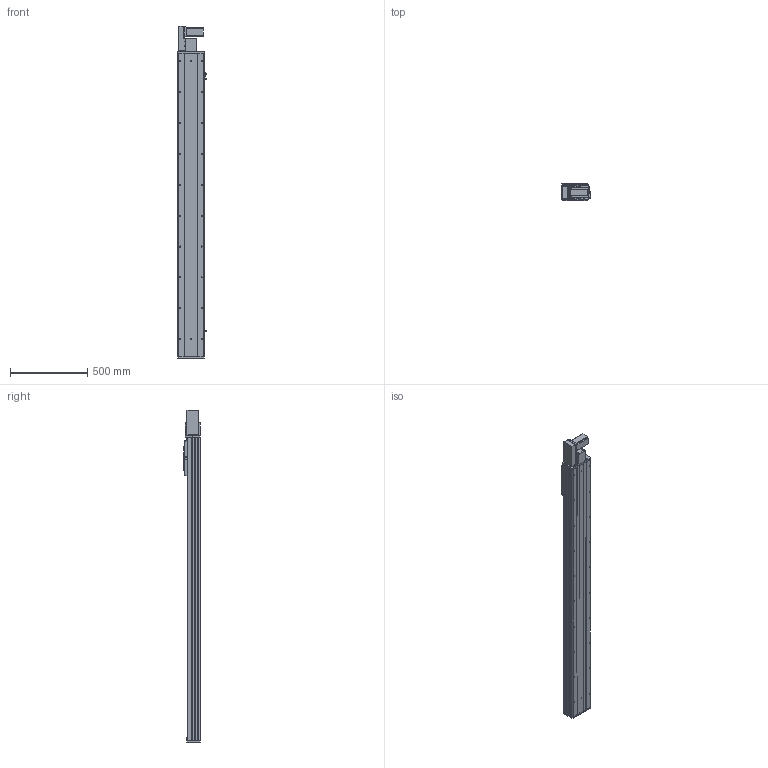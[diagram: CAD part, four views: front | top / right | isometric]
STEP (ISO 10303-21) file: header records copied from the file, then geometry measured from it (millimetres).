
FILE_DESCRIPTION (( 'STEP AP203' ), '1' );
FILE_NAME ('Y170CB-D105-S1650-BL-P400W.STEP', '2020-02-20T01:28:56', ( '微软用户' ), ( '微软中国' ), 'SwSTEP 2.0', 'SolidWorks 2017', '' );
FILE_SCHEMA (( 'CONFIG_CONTROL_DESIGN' ));
Length unit declared in the file: millimetre
Products named in the file (18): Y170CB-陔俋离換覜結え---; --70CB --喘謫眊楊擘啣-; 70B喘謫眊----; 70CB-耜裔啣-; Y1埴倛裔; 70C--詩湍揤踡え-; B-源倛裔啣; Y170CB-D105-S1650-BL-P400W; 70CB--耜裔; 17B-耜蚾蟀諉啣----; 70C-雄赽釱-奻-; 0B-萇儂楊擘啣; 0C--雄赽釱俋欶-170; san松下电机400不带刹车----; 70CB-詩湍--; Y70俋欶BR----; Y100-135俋离換覜ん--; 70CB-掛极-
Assembly tree (21 placements, depth 2):
  Y170CB-D105-S1650-BL-P400W
    B-源倛裔啣
    17B-耜蚾蟀諉啣----
    0B-萇儂楊擘啣
    san松下电机400不带刹车----
    Y70俋欶BR----
    70CB-掛极-
    --70CB --喘謫眊楊擘啣-
    70CB-耜裔啣-  x2
    70C--詩湍揤踡え-  x2
    70CB--耜裔
    70C-雄赽釱-奻-
    0C--雄赽釱俋欶-170
    70CB-詩湍--
    Y100-135俋离換覜ん--  x3
    Y170CB-陔俋离換覜結え---
    70B喘謫眊----
    Y1埴倛裔
Bounding box: 183.5 x 107 x 2147 mm (x, y, z)
Volume: 9097235.8 mm3; surface area: 3272910 mm2
Topology: 21 solids, 21 shells, 1031 faces, 2765 edges, 1834 vertices
Faces by surface type: cylinder 543, plane 464, cone 24
Entity records: 32904 total; most frequent: CARTESIAN_POINT 6036, DIRECTION 5350, ORIENTED_EDGE 5012, EDGE_CURVE 2506, AXIS2_PLACEMENT_3D 1964, VERTEX_POINT 1664, VECTOR 1422, LINE 1422
